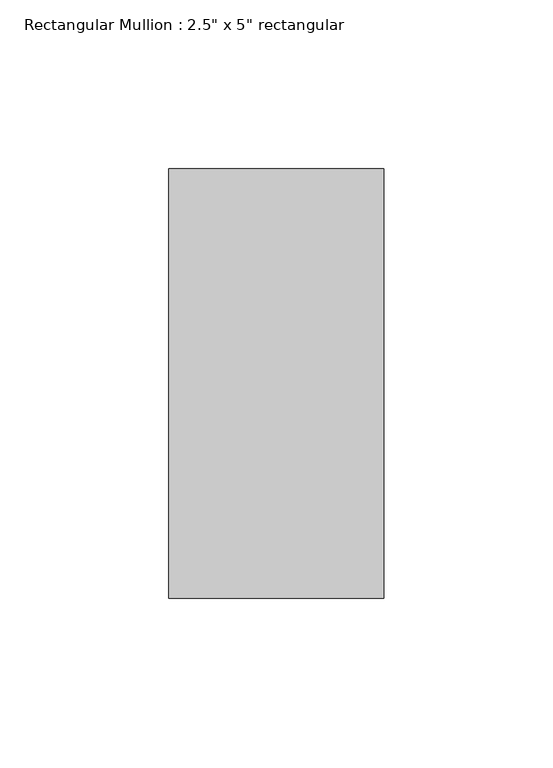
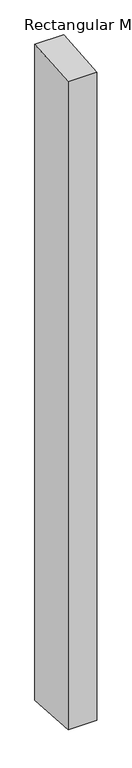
"""IFC4 building model written with IfcOpenShell, lengths in millimetres: member geometry."""

from ifc_helpers import new_model, si_unit, frame, origin, place, context, project, spatial, polyline, outline, extrude, source, transform, mapped, element, save


def member_5eaec6db(model_context):
    return source(origin(), model_context, "Body", "SweptSolid", [
        extrude(outline(polyline([(-63.5, -5.3101368), (63.5, 5.3101368), (63.5, -1527.7401328), (-63.5, -1520.2598672), (-63.5, -5.3101368)])), frame((-31.75, 0.0, 0.0), z_axis=(1.0, 0.0, 0.0), x_axis=(0.0, 1.0, 0.0)), (0.0, 0.0, 1.0), 63.5),
    ])


if __name__ == "__main__":
    model = new_model("IFC4")
    model_context = context("Model", 3, world=origin())
    ifc_project = project(units=[si_unit("LENGTHUNIT", "METRE", prefix="MILLI")], contexts=[model_context])
    site = spatial("IfcSite", under=ifc_project)
    building = spatial("IfcBuilding", under=site)
    placement = place(None, origin())
    member_shape = member_5eaec6db(model_context)
    element("IfcMember", 1, ObjectType="Rectangular Mullion : 2.5\" x 5\" rectangular", at=placement, inside=building, context=model_context, shape_type="MappedRepresentation", body=[
        mapped(member_shape, transform((0.0, 0.0, 0.0), x_axis=(1.0, 0.0, 0.0), y_axis=(0.0, 1.0, 0.0), z_axis=(0.0, 0.0, 1.0))),
    ])
    save(model, "model.ifc")
